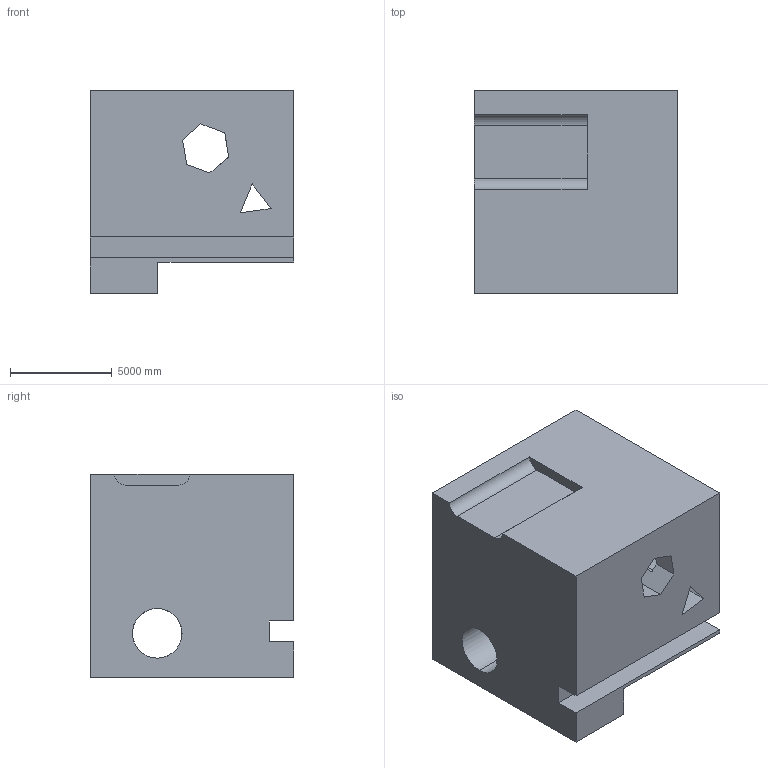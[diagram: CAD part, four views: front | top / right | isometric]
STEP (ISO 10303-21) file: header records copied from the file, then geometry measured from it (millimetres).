
FILE_DESCRIPTION (( 'STEP AP203' ), '1' );
FILE_NAME ('131.STEP', '2022-08-31T14:21:25', ( 'user' ), ( '' ), 'SwSTEP 2.0', 'SolidWorks 2021', '' );
FILE_SCHEMA (( 'CONFIG_CONTROL_DESIGN' ));
Length unit declared in the file: centimetre
Products named in the file (1): 131
Bounding box: 10000 x 10000 x 10000 mm (x, y, z)
Volume: 737831665385.4 mm3; surface area: 788705804.9 mm2
Topology: 1 solids, 1 shells, 36 faces, 104 edges, 69 vertices
Faces by surface type: plane 27, cylinder 9
Entity records: 1269 total; most frequent: CARTESIAN_POINT 210, ORIENTED_EDGE 208, DIRECTION 198, EDGE_CURVE 104, VECTOR 84, LINE 84, VERTEX_POINT 69, AXIS2_PLACEMENT_3D 57
